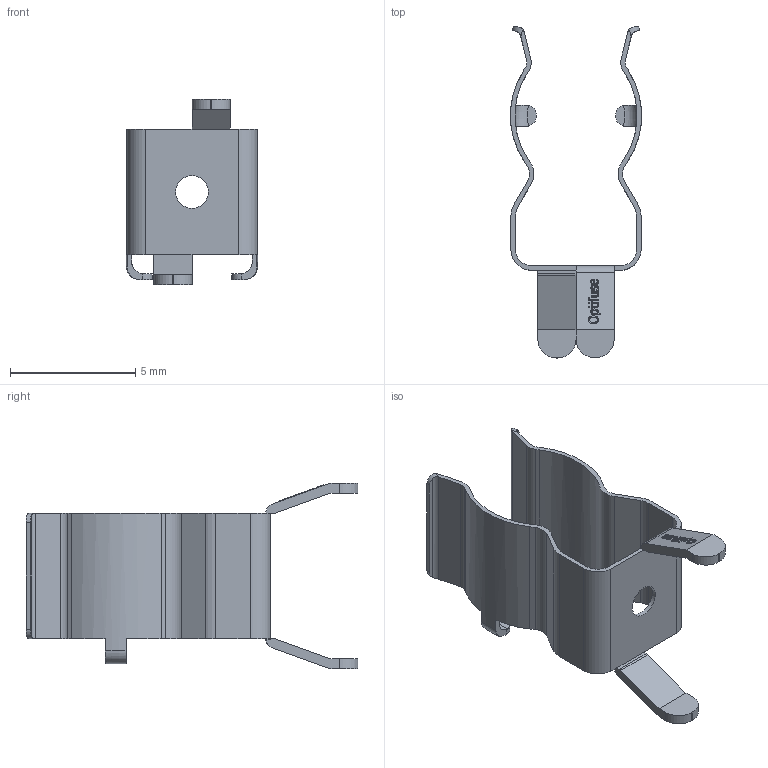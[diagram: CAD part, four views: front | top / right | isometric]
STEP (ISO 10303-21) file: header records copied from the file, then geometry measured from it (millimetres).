
FILE_DESCRIPTION(/* description */ (''),/* implementation_level */ '2;1');
FILE_NAME(/* name */ 'C:\Users\Hani\Desktop\work\CSC-08\CSC-08.stp',/* time_stamp */ '2021-10-29T11:05:08-07:00',/* author */ ('Hani'),/* organization */ (''),/* preprocessor_version */ 'ST-DEVELOPER v17',/* originating_system */ 'Autodesk Inventor 2019',/* authorisation */ '');
FILE_SCHEMA (('AUTOMOTIVE_DESIGN { 1 0 10303 214 3 1 1 }'));
Length unit declared in the file: inch
Products named in the file (1): CSC
Bounding box: 5.24 x 13.25 x 7.4 mm (x, y, z)
Volume: 26.9 mm3; surface area: 294.1 mm2
Topology: 1 solids, 1 shells, 242 faces, 677 edges, 449 vertices
Faces by surface type: plane 129, bspline 67, cylinder 42, torus 4
Full cylindrical faces by diameter (mm): 1.3 x1
Entity records: 8471 total; most frequent: CARTESIAN_POINT 2590, ORIENTED_EDGE 1354, DIRECTION 969, EDGE_CURVE 677, VERTEX_POINT 449, LINE 427, VECTOR 427, AXIS2_PLACEMENT_3D 271
